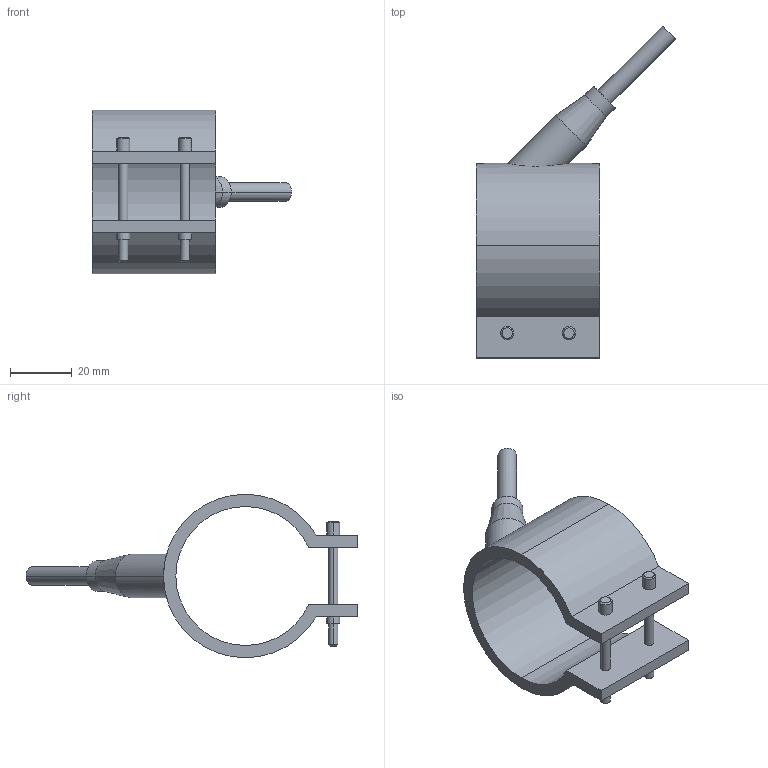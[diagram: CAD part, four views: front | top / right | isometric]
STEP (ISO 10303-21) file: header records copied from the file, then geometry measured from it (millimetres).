
FILE_DESCRIPTION(('CATIA V5 STEP Exchange'),'2;1');
FILE_NAME('C:\Users\Utente\Desktop\IO LAVORO\3D X SITO CF\X SITO\PLASTICA\RF1\29045040.stp','2021-03-27T09:34:40+00:00',('none'),('none'),'CATIA Version 5 Release 20 GA (IN-10)','CATIA V5 STEP AP203','none');
FILE_SCHEMA(('CONFIG_CONTROL_DESIGN'));
Length unit declared in the file: millimetre
Products named in the file (1): 29045040
Bounding box: 64.55 x 107.55 x 53 mm (x, y, z)
Volume: 30970.1 mm3; surface area: 16698.5 mm2
Topology: 1 solids, 1 shells, 54 faces, 122 edges, 78 vertices
Faces by surface type: cylinder 28, plane 16, cone 10
Entity records: 1714 total; most frequent: CARTESIAN_POINT 483, ORIENTED_EDGE 244, DIRECTION 215, EDGE_CURVE 122, AXIS2_PLACEMENT_3D 108, VERTEX_POINT 78, EDGE_LOOP 66, VECTOR 56
